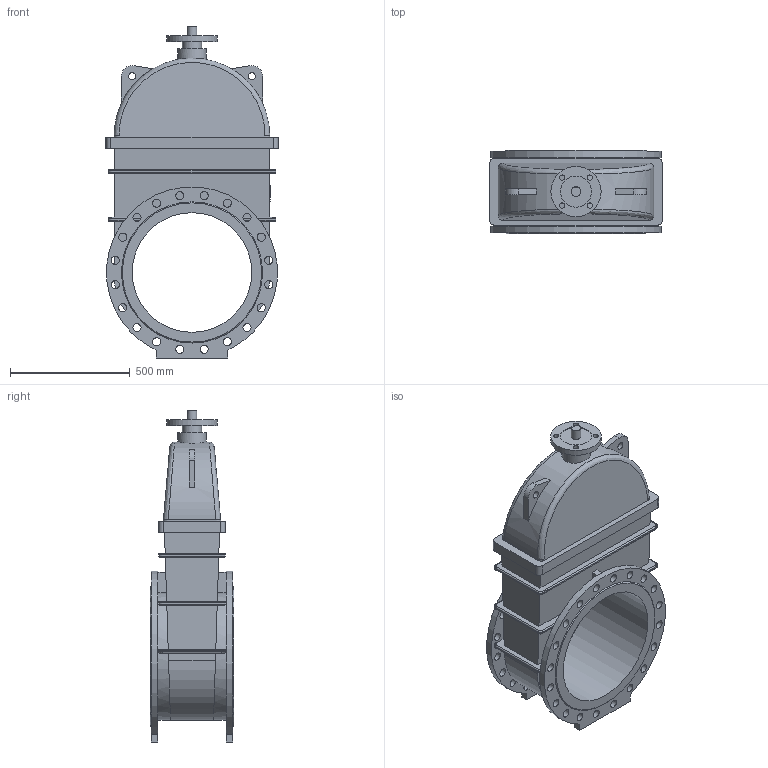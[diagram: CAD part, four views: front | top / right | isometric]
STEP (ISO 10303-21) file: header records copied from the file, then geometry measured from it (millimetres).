
FILE_DESCRIPTION(('STEP AP203'), '1');
FILE_NAME('Çàäâèæêà 47GVA.Z DN500 PN16 áåç èñïîëíèò. ìåõ.', '', ('UNSPECIFIED'), ('UNSPECIFIED'), 'ASCON STEP Converter 1.6', 'ASCON Math Kernel', '');
FILE_SCHEMA(('CONFIG_CONTROL_DESIGN'));
Length unit declared in the file: millimetre
Bounding box: 720 x 350 x 1387.5 mm (x, y, z)
Volume: 123978943.5 mm3; surface area: 3669927 mm2
Topology: 1 solids, 1 shells, 250 faces, 636 edges, 406 vertices
Faces by surface type: cylinder 121, plane 101, bspline 26, cone 2
Full cylindrical faces by diameter (mm): 22 x4, 30 x2, 34 x40, 40 x1, 80 x1, 120 x1, 130 x1, 210 x1, 500 x1
Entity records: 12903 total; most frequent: CARTESIAN_POINT 5033, ORIENTED_EDGE 1164, DIRECTION 1131, EDGE_CURVE 582, AXIS2_PLACEMENT_3D 422, EDGE_LOOP 416, VERTEX_POINT 406, FACE_BOUND 309
